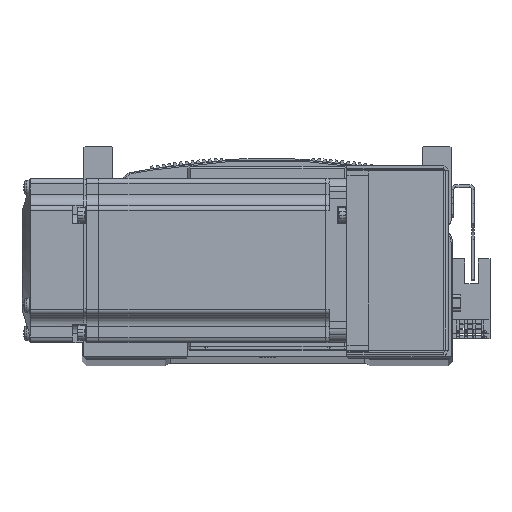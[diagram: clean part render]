
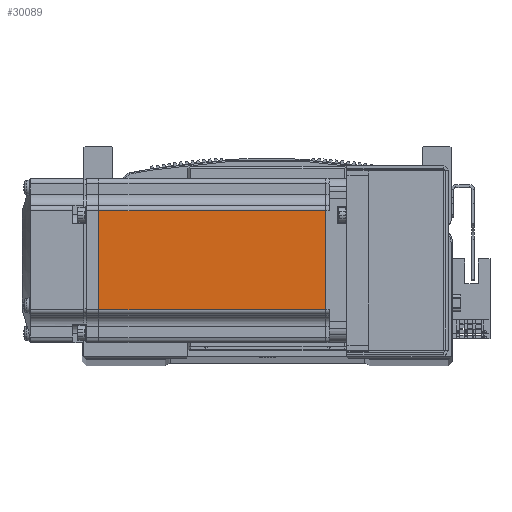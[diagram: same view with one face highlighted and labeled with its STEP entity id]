
A CAD part, top view. The second image highlights one B-rep face of the part: STEP entity #30089.
In plain terms, the highlighted planar face has unit normal (0, 0, 1) as drawn and (0, -1, 0) by its records, which use the part's own axes.
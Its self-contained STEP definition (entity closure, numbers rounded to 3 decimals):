
#1347 = CARTESIAN_POINT ( 'NONE',  ( -6.5, -30., 18. ) ) ;
#1366 = DIRECTION ( 'NONE',  ( -1., 0., 0. ) ) ;
#1424 = DIRECTION ( 'NONE',  ( 0., 0., -1. ) ) ;
#1438 = CARTESIAN_POINT ( 'NONE',  ( -7.75, -30., 0. ) ) ;
#1451 = CARTESIAN_POINT ( 'NONE',  ( -90.45, -30., 0. ) ) ;
#1490 = DIRECTION ( 'NONE',  ( 0., 0., -1. ) ) ;
#1491 = DIRECTION ( 'NONE',  ( -1., 0., 0. ) ) ;
#1524 = CARTESIAN_POINT ( 'NONE',  ( -6.5, -30., -18. ) ) ;
#12660 = EDGE_CURVE ( 'NONE', #68818, #68866, #60020, .T. ) ;
#12688 = EDGE_CURVE ( 'NONE', #68818, #68773, #59998, .T. ) ;
#12720 = EDGE_CURVE ( 'NONE', #68866, #68853, #60039, .T. ) ;
#12740 = EDGE_CURVE ( 'NONE', #68773, #68853, #60105, .T. ) ;
#16197 = CARTESIAN_POINT ( 'NONE',  ( -7.75, -30., -18. ) ) ;
#16425 = CARTESIAN_POINT ( 'NONE',  ( -7.75, -30., 18. ) ) ;
#16507 = CARTESIAN_POINT ( 'NONE',  ( -90.45, -30., -18. ) ) ;
#16587 = CARTESIAN_POINT ( 'NONE',  ( -90.45, -30., 18. ) ) ;
#20110 = EDGE_LOOP ( 'NONE', ( #78658, #78606, #78632, #78614 ) ) ;
#30089 = ADVANCED_FACE ( 'NONE', ( #55298 ), #82871, .T. ) ;
#55298 = FACE_OUTER_BOUND ( 'NONE', #20110, .T. ) ;
#58952 = AXIS2_PLACEMENT_3D ( 'NONE', #82878, #82889, #82848 ) ;
#59994 = VECTOR ( 'NONE', #1424, 1000. ) ;
#59998 = LINE ( 'NONE', #1438, #59994 ) ;
#60004 = VECTOR ( 'NONE', #1366, 1000. ) ;
#60020 = LINE ( 'NONE', #1347, #60004 ) ;
#60039 = LINE ( 'NONE', #1451, #60088 ) ;
#60088 = VECTOR ( 'NONE', #1490, 1000. ) ;
#60105 = LINE ( 'NONE', #1524, #60112 ) ;
#60112 = VECTOR ( 'NONE', #1491, 1000. ) ;
#68773 = VERTEX_POINT ( 'NONE', #16197 ) ;
#68818 = VERTEX_POINT ( 'NONE', #16425 ) ;
#68853 = VERTEX_POINT ( 'NONE', #16507 ) ;
#68866 = VERTEX_POINT ( 'NONE', #16587 ) ;
#78606 = ORIENTED_EDGE ( 'NONE', *, *, #12660, .T. ) ;
#78614 = ORIENTED_EDGE ( 'NONE', *, *, #12740, .F. ) ;
#78632 = ORIENTED_EDGE ( 'NONE', *, *, #12720, .T. ) ;
#78658 = ORIENTED_EDGE ( 'NONE', *, *, #12688, .F. ) ;
#82848 = DIRECTION ( 'NONE',  ( 0., 0., -1. ) ) ;
#82871 = PLANE ( 'NONE',  #58952 ) ;
#82878 = CARTESIAN_POINT ( 'NONE',  ( -6.5, -30., -25. ) ) ;
#82889 = DIRECTION ( 'NONE',  ( 0., -1., 0. ) ) ;
